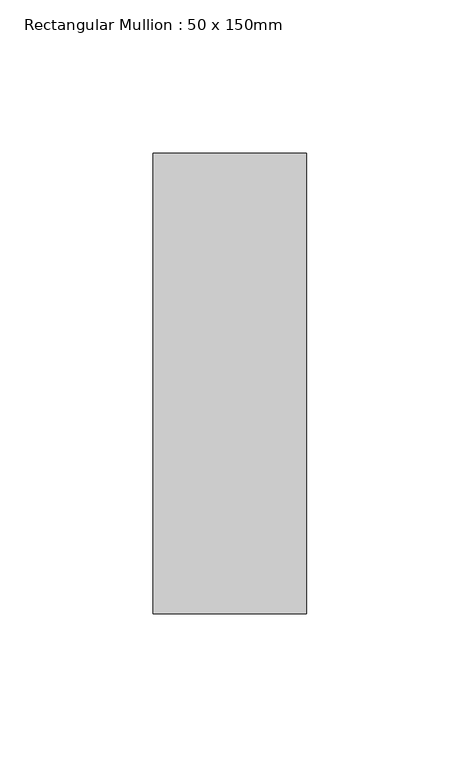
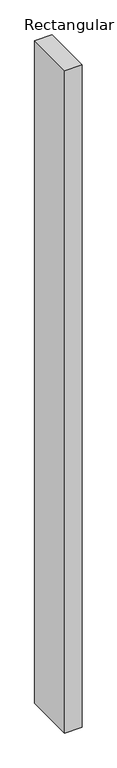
"""IFC4 building model written with IfcOpenShell, lengths in millimetres: member geometry, Rectangular Mullion : 50 x 150mm."""

from ifc_helpers import new_model, si_unit, frame, origin, place, context, project, spatial, polyline, outline, extrude, source, transform, mapped, element, save


def rectangular_mullion_50_x_150mm_d1b40984(model_context):
    return source(origin(), model_context, "Body", "SweptSolid", [
        extrude(outline(polyline([(0.0, 75.0), (0.0, -75.0), (-50.0, -75.0), (-50.0, 75.0), (0.0, 75.0)])), frame((0.0, 0.0, -2015.9495993), z_axis=(0.0, 0.0, 1.0), x_axis=(1.0, 0.0, 0.0)), (0.0, 0.0, 1.0), 2015.9495993),
    ])


if __name__ == "__main__":
    model = new_model("IFC4")
    model_context = context("Model", 3, world=origin())
    ifc_project = project(units=[si_unit("LENGTHUNIT", "METRE", prefix="MILLI")], contexts=[model_context])
    site = spatial("IfcSite", under=ifc_project)
    building = spatial("IfcBuilding", under=site)
    placement = place(None, origin())
    rectangular_mullion_50_x_150mm_shape = rectangular_mullion_50_x_150mm_d1b40984(model_context)
    element("IfcMember", 1, ObjectType="Rectangular Mullion : 50 x 150mm", at=placement, inside=building, context=model_context, shape_type="MappedRepresentation", body=[
        mapped(rectangular_mullion_50_x_150mm_shape, transform((0.0, 0.0, 0.0), x_axis=(1.0, 0.0, 0.0), y_axis=(0.0, 1.0, 0.0), z_axis=(0.0, 0.0, 1.0))),
    ])
    save(model, "model.ifc")
